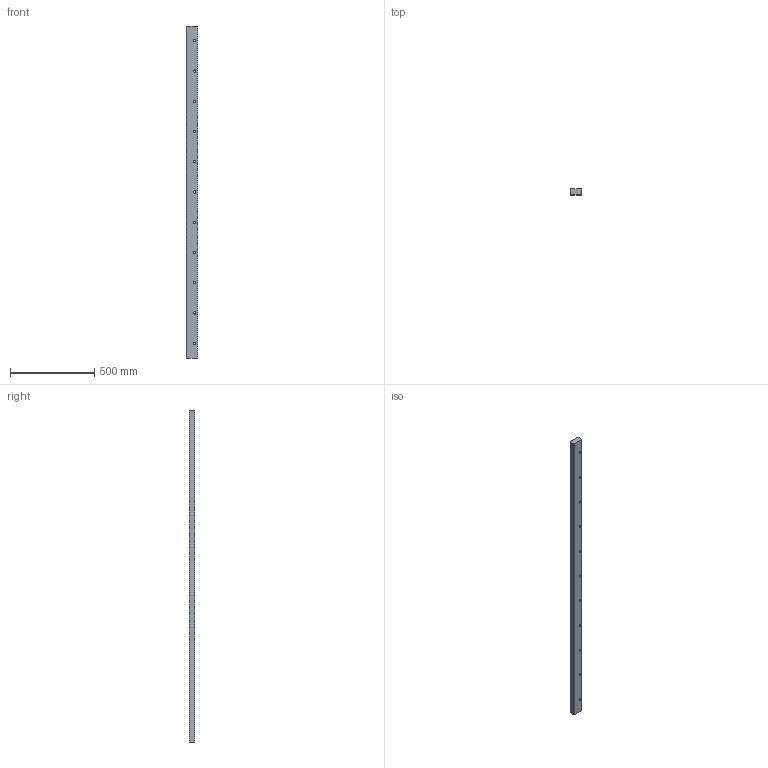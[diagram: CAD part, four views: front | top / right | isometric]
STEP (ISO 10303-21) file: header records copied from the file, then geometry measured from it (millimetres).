
FILE_DESCRIPTION(('STEP AP203'),'1');
FILE_NAME('track_ft6633l1976p2a.stp','2022-07-04T01:42:16',('TraceParts'),('TraceParts S.A.'),'Spatial InterOp 3D',' ',' ');
FILE_SCHEMA(('CONFIG_CONTROL_DESIGN'));
Length unit declared in the file: millimetre
Products named in the file (1): 1
Bounding box: 66.4 x 33 x 1976 mm (x, y, z)
Volume: 4250253.2 mm3; surface area: 408571.7 mm2
Topology: 1 solids, 1 shells, 65 faces, 156 edges, 104 vertices
Faces by surface type: cylinder 44, plane 21
Entity records: 2026 total; most frequent: DIRECTION 376, CARTESIAN_POINT 326, ORIENTED_EDGE 312, EDGE_CURVE 156, AXIS2_PLACEMENT_3D 154, VERTEX_POINT 104, EDGE_LOOP 98, CIRCLE 88
